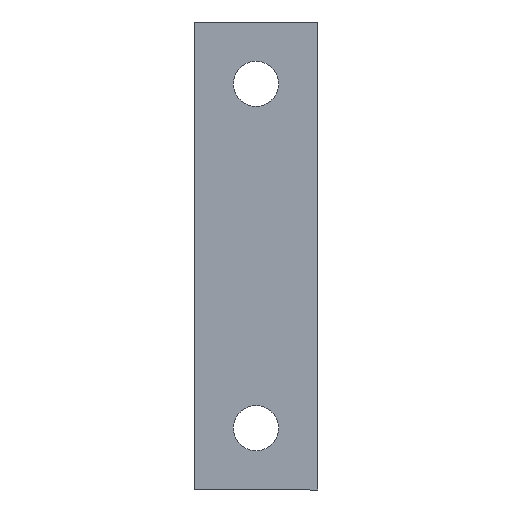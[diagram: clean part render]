
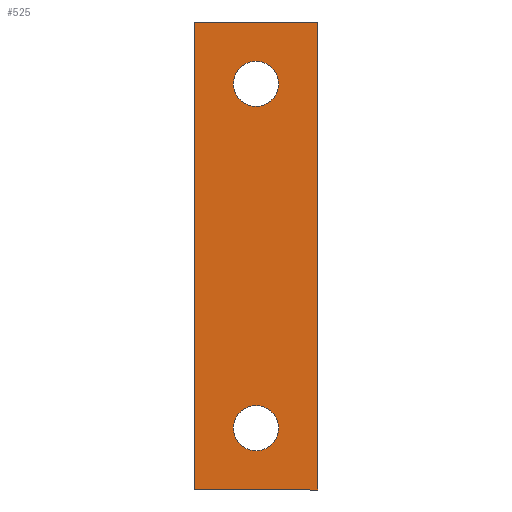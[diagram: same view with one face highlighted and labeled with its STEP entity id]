
A CAD part, front view. The second image highlights one B-rep face of the part: STEP entity #525.
In plain terms, the highlighted planar face has unit normal (0, -1, 0).
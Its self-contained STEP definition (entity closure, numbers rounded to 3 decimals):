
#1 = ORIENTED_EDGE ( 'NONE', *, *, #599, .T. ) ;
#3 = ORIENTED_EDGE ( 'NONE', *, *, #607, .F. ) ;
#5 = ORIENTED_EDGE ( 'NONE', *, *, #547, .F. ) ;
#10 = VECTOR ( 'NONE', #436, 1000. ) ;
#11 = VECTOR ( 'NONE', #477, 1000. ) ;
#27 = EDGE_LOOP ( 'NONE', ( #164, #181 ) ) ;
#32 = FACE_BOUND ( 'NONE', #27, .T. ) ;
#40 = VECTOR ( 'NONE', #509, 1000. ) ;
#42 = LINE ( 'NONE', #481, #40 ) ;
#50 = LINE ( 'NONE', #488, #11 ) ;
#71 = LINE ( 'NONE', #412, #10 ) ;
#98 = EDGE_LOOP ( 'NONE', ( #1, #3, #5, #119 ) ) ;
#102 = LINE ( 'NONE', #444, #165 ) ;
#119 = ORIENTED_EDGE ( 'NONE', *, *, #612, .T. ) ;
#123 = ORIENTED_EDGE ( 'NONE', *, *, #565, .T. ) ;
#144 = FACE_OUTER_BOUND ( 'NONE', #98, .T. ) ;
#151 = EDGE_LOOP ( 'NONE', ( #196, #123 ) ) ;
#152 = CIRCLE ( 'NONE', #610, 2.1 ) ;
#160 = FACE_BOUND ( 'NONE', #151, .T. ) ;
#164 = ORIENTED_EDGE ( 'NONE', *, *, #564, .T. ) ;
#165 = VECTOR ( 'NONE', #442, 1000. ) ;
#181 = ORIENTED_EDGE ( 'NONE', *, *, #566, .T. ) ;
#183 = CIRCLE ( 'NONE', #579, 2.1 ) ;
#196 = ORIENTED_EDGE ( 'NONE', *, *, #536, .T. ) ;
#198 = CIRCLE ( 'NONE', #614, 2.1 ) ;
#233 = CIRCLE ( 'NONE', #589, 2.1 ) ;
#262 = DIRECTION ( 'NONE',  ( 1., 0., 0. ) ) ;
#269 = VERTEX_POINT ( 'NONE', #341 ) ;
#270 = VERTEX_POINT ( 'NONE', #323 ) ;
#272 = PLANE ( 'NONE',  #587 ) ;
#282 = CARTESIAN_POINT ( 'NONE',  ( -5.75, 0., 21.75 ) ) ;
#303 = VERTEX_POINT ( 'NONE', #329 ) ;
#310 = CARTESIAN_POINT ( 'NONE',  ( 5.75, 0., 21.75 ) ) ;
#323 = CARTESIAN_POINT ( 'NONE',  ( -2.1, 0., -16. ) ) ;
#326 = VERTEX_POINT ( 'NONE', #382 ) ;
#329 = CARTESIAN_POINT ( 'NONE',  ( 2.1, 0., 16. ) ) ;
#337 = VERTEX_POINT ( 'NONE', #310 ) ;
#338 = VERTEX_POINT ( 'NONE', #373 ) ;
#341 = CARTESIAN_POINT ( 'NONE',  ( 5.75, 0., -21.75 ) ) ;
#345 = CARTESIAN_POINT ( 'NONE',  ( -5.75, 0., -21.75 ) ) ;
#351 = VERTEX_POINT ( 'NONE', #282 ) ;
#355 = VERTEX_POINT ( 'NONE', #345 ) ;
#367 = CARTESIAN_POINT ( 'NONE',  ( 5.75, 0., 21.75 ) ) ;
#373 = CARTESIAN_POINT ( 'NONE',  ( 2.1, 0., -16. ) ) ;
#374 = DIRECTION ( 'NONE',  ( 0., 1., 0. ) ) ;
#382 = CARTESIAN_POINT ( 'NONE',  ( -2.1, 0., 16. ) ) ;
#389 = DIRECTION ( 'NONE',  ( 0., 1., 0. ) ) ;
#390 = CARTESIAN_POINT ( 'NONE',  ( 0., 0., 16. ) ) ;
#391 = DIRECTION ( 'NONE',  ( -1., 0., 0. ) ) ;
#406 = CARTESIAN_POINT ( 'NONE',  ( 0., 0., 16. ) ) ;
#407 = DIRECTION ( 'NONE',  ( 1., 0., 0. ) ) ;
#412 = CARTESIAN_POINT ( 'NONE',  ( 5.75, 0., 21.75 ) ) ;
#436 = DIRECTION ( 'NONE',  ( -1., 0., 0. ) ) ;
#442 = DIRECTION ( 'NONE',  ( 0., 0., -1. ) ) ;
#444 = CARTESIAN_POINT ( 'NONE',  ( 5.75, 0., 21.75 ) ) ;
#458 = CARTESIAN_POINT ( 'NONE',  ( 0., 0., -16. ) ) ;
#460 = DIRECTION ( 'NONE',  ( 0., 1., 0. ) ) ;
#465 = CARTESIAN_POINT ( 'NONE',  ( 0., 0., -16. ) ) ;
#466 = DIRECTION ( 'NONE',  ( 0., 1., 0. ) ) ;
#477 = DIRECTION ( 'NONE',  ( 0., 0., -1. ) ) ;
#481 = CARTESIAN_POINT ( 'NONE',  ( 5.75, 0., -21.75 ) ) ;
#488 = CARTESIAN_POINT ( 'NONE',  ( -5.75, 0., 21.75 ) ) ;
#492 = DIRECTION ( 'NONE',  ( 0., 1., 0. ) ) ;
#502 = DIRECTION ( 'NONE',  ( 1., 0., 0. ) ) ;
#503 = DIRECTION ( 'NONE',  ( -1., 0., 0. ) ) ;
#509 = DIRECTION ( 'NONE',  ( -1., 0., 0. ) ) ;
#525 = ADVANCED_FACE ( 'NONE', ( #32, #144, #160 ), #272, .F. ) ;
#536 = EDGE_CURVE ( 'NONE', #326, #303, #233, .T. ) ;
#547 = EDGE_CURVE ( 'NONE', #337, #269, #102, .T. ) ;
#564 = EDGE_CURVE ( 'NONE', #270, #338, #152, .T. ) ;
#565 = EDGE_CURVE ( 'NONE', #303, #326, #198, .T. ) ;
#566 = EDGE_CURVE ( 'NONE', #338, #270, #183, .T. ) ;
#579 = AXIS2_PLACEMENT_3D ( 'NONE', #465, #460, #407 ) ;
#587 = AXIS2_PLACEMENT_3D ( 'NONE', #367, #374, #262 ) ;
#589 = AXIS2_PLACEMENT_3D ( 'NONE', #390, #389, #391 ) ;
#599 = EDGE_CURVE ( 'NONE', #351, #355, #50, .T. ) ;
#607 = EDGE_CURVE ( 'NONE', #269, #355, #42, .T. ) ;
#610 = AXIS2_PLACEMENT_3D ( 'NONE', #458, #466, #502 ) ;
#612 = EDGE_CURVE ( 'NONE', #337, #351, #71, .T. ) ;
#614 = AXIS2_PLACEMENT_3D ( 'NONE', #406, #492, #503 ) ;
